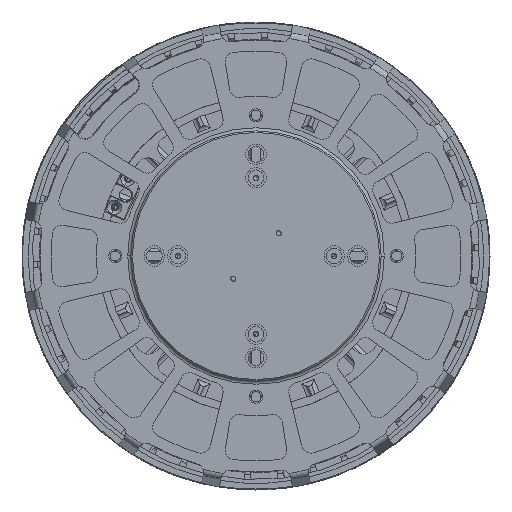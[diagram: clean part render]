
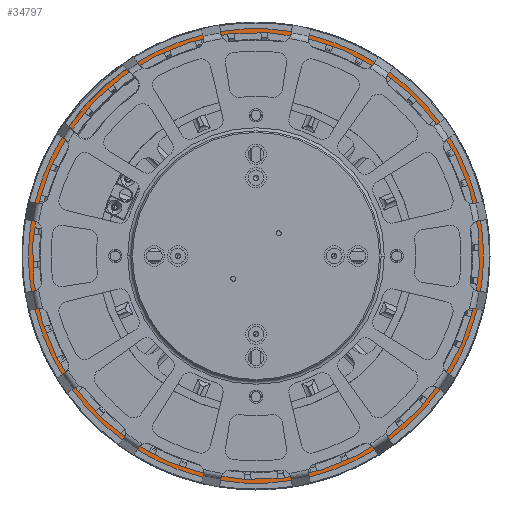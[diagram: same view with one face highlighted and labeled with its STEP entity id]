
A CAD part, left-side view. The second image highlights one B-rep face of the part: STEP entity #34797.
In plain terms, the highlighted planar face has unit normal (-1, 0, 0).
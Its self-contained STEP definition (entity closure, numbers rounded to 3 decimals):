
#146 = AXIS2_PLACEMENT_3D ( 'NONE', #14789, #47335, #138827 ) ;
#1556 = EDGE_LOOP ( 'NONE', ( #37608, #12915 ) ) ;
#11084 = FACE_OUTER_BOUND ( 'NONE', #1556, .T. ) ;
#12915 = ORIENTED_EDGE ( 'NONE', *, *, #57734, .F. ) ;
#14789 = CARTESIAN_POINT ( 'NONE',  ( -118.813, 38.585, 0. ) ) ;
#15661 = CIRCLE ( 'NONE', #57307, 71.5 ) ;
#16781 = CIRCLE ( 'NONE', #62999, 74.8 ) ;
#24728 = CARTESIAN_POINT ( 'NONE',  ( -118.813, 4.627, -66.647 ) ) ;
#27630 = EDGE_CURVE ( 'NONE', #77358, #57206, #16781, .T. ) ;
#32038 = DIRECTION ( 'NONE',  ( 0., -0.454, -0.891 ) ) ;
#34160 = PLANE ( 'NONE',  #35117 ) ;
#34797 = ADVANCED_FACE ( 'NONE', ( #11084, #79167 ), #34160, .F. ) ;
#35117 = AXIS2_PLACEMENT_3D ( 'NONE', #142469, #42948, #32038 ) ;
#37608 = ORIENTED_EDGE ( 'NONE', *, *, #27630, .F. ) ;
#41038 = EDGE_CURVE ( 'NONE', #53781, #55308, #95398, .T. ) ;
#42948 = DIRECTION ( 'NONE',  ( 1., 0., 0. ) ) ;
#47335 = DIRECTION ( 'NONE',  ( 1., 0., 0. ) ) ;
#51019 = CIRCLE ( 'NONE', #146, 74.8 ) ;
#53781 = VERTEX_POINT ( 'NONE', #77192 ) ;
#55308 = VERTEX_POINT ( 'NONE', #61553 ) ;
#56690 = EDGE_LOOP ( 'NONE', ( #124910, #112095 ) ) ;
#57206 = VERTEX_POINT ( 'NONE', #83208 ) ;
#57307 = AXIS2_PLACEMENT_3D ( 'NONE', #110706, #111437, #88220 ) ;
#57734 = EDGE_CURVE ( 'NONE', #57206, #77358, #51019, .T. ) ;
#60008 = DIRECTION ( 'NONE',  ( 1., 0., 0. ) ) ;
#61553 = CARTESIAN_POINT ( 'NONE',  ( -118.813, 6.125, -63.707 ) ) ;
#62999 = AXIS2_PLACEMENT_3D ( 'NONE', #137743, #60008, #100139 ) ;
#76874 = AXIS2_PLACEMENT_3D ( 'NONE', #81830, #117367, #125414 ) ;
#77192 = CARTESIAN_POINT ( 'NONE',  ( -118.813, 71.046, 63.707 ) ) ;
#77358 = VERTEX_POINT ( 'NONE', #24728 ) ;
#77648 = EDGE_CURVE ( 'NONE', #55308, #53781, #15661, .T. ) ;
#79167 = FACE_BOUND ( 'NONE', #56690, .T. ) ;
#81830 = CARTESIAN_POINT ( 'NONE',  ( -118.813, 38.585, 0. ) ) ;
#83208 = CARTESIAN_POINT ( 'NONE',  ( -118.813, 72.544, 66.647 ) ) ;
#88220 = DIRECTION ( 'NONE',  ( 0., -0.454, -0.891 ) ) ;
#95398 = CIRCLE ( 'NONE', #76874, 71.5 ) ;
#100139 = DIRECTION ( 'NONE',  ( 0., -0.454, -0.891 ) ) ;
#110706 = CARTESIAN_POINT ( 'NONE',  ( -118.813, 38.585, 0. ) ) ;
#111437 = DIRECTION ( 'NONE',  ( 1., 0., 0. ) ) ;
#112095 = ORIENTED_EDGE ( 'NONE', *, *, #41038, .T. ) ;
#117367 = DIRECTION ( 'NONE',  ( 1., 0., 0. ) ) ;
#124910 = ORIENTED_EDGE ( 'NONE', *, *, #77648, .T. ) ;
#125414 = DIRECTION ( 'NONE',  ( 0., -0.454, -0.891 ) ) ;
#137743 = CARTESIAN_POINT ( 'NONE',  ( -118.813, 38.585, 0. ) ) ;
#138827 = DIRECTION ( 'NONE',  ( 0., -0.454, -0.891 ) ) ;
#142469 = CARTESIAN_POINT ( 'NONE',  ( -118.813, 105.233, -33.958 ) ) ;
